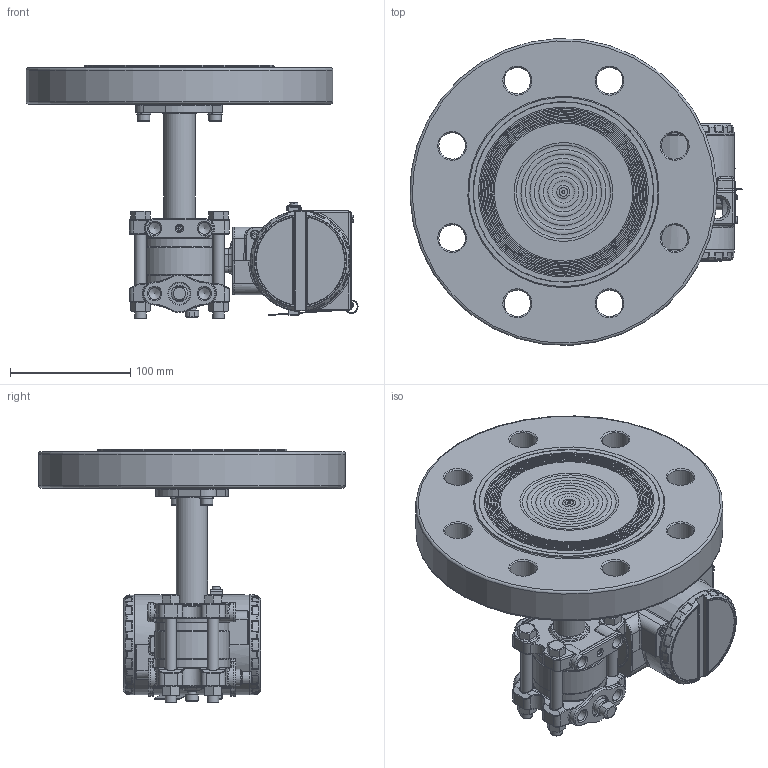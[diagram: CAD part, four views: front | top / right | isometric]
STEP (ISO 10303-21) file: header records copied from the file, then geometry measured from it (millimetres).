
FILE_DESCRIPTION(/* description */ (''),/* implementation_level */ '2;1');
FILE_NAME(/* name */ 'F:\Area\Desenvolvimento_2\Projects\Sensor\projetos\LD30X\montagens 3d - clientes\SELO NIVEL\LD30XL 4-300 RF ref 1-4NPT purga acima.stp',/* time_stamp */ '2023-02-15T08:41:20-03:00',/* author */ ('inventor02'),/* organization */ (''),/* preprocessor_version */ 'ST-DEVELOPER v17',/* originating_system */ 'Autodesk Inventor 2019',/* authorisation */ '');
FILE_SCHEMA (('CONFIG_CONTROL_DESIGN'));
Products named in the file (38): LD30XL 4-300 RF ref 1-4NPT purga acima; 204-0301-L-4 300 RF purga acima; nivel fx3 com baixa diferencial 1-4NPT purga acima; involucro fx0-3 apos a usinagem final; flange diferencial std purga; 101-C-7484-01 flange selo nivel VR; 201-A-0504-tubo união teste 1; bujao 1-4NPT; Sangria; Porca 3-8 x 16 UNC; Paraf. 3-8 x 16 UNC; adaptação tubo x flanges 1-1-2 a 4pol; 101-B-0161-anel cortado do tubo - teste1; 101-B-0162-flange fixação tubo; ANSI B18.3.1M - M6x1 x 16; DIN 127 - A 6; 101-C-0121-10; carcaça vazia com tampas e plaqueta; carcaça LD inox sem letras; Subconjunto plaqueta 300; Plaqueta transmissor; Parafuso da Plaqueta; Rebite da Plaqueta; 096-A-0169-03; 101-A-0502-01; Chapa aterramento externo; ISO 1207 - M4 x 8; DIN 915 - M6 x 10; ANSI B18.3.1M - M4x0,7 x 8; Subconjunto tampa com visor aluminio; tampa pintada; VIDRO DO VISOR; oring 41x1 vidro tampa; Trava do vidro da tampa com visor; trava do vidro VH256; Subconjunto tampa sem visor-aluminio; tampa cega 300 pintada p0; 00034775-0
Assembly tree (48 placements, depth 4):
  LD30XL 4-300 RF ref 1-4NPT purga acima
    204-0301-L-4 300 RF purga acima
      nivel fx3 com baixa diferencial 1-4NPT purga acima
        involucro fx0-3 apos a usinagem final
        flange diferencial std purga
        101-C-7484-01 flange selo nivel VR
        201-A-0504-tubo união teste 1
        DIN 915 - M6 x 10
        bujao 1-4NPT
        Sangria
        Porca 3-8 x 16 UNC  x4
        Paraf. 3-8 x 16 UNC  x4
      adaptação tubo x flanges 1-1-2 a 4pol
        101-B-0161-anel cortado do tubo - teste1
        101-B-0162-flange fixação tubo
        ANSI B18.3.1M - M6x1 x 16  x2
        DIN 127 - A 6  x2
      101-C-0121-10
    carcaça vazia com tampas e plaqueta
      carcaça LD inox sem letras
      Subconjunto plaqueta 300
        Plaqueta transmissor
        Parafuso da Plaqueta
        Rebite da Plaqueta
        096-A-0169-03
        101-A-0502-01
      Chapa aterramento externo
      ISO 1207 - M4 x 8
      DIN 915 - M6 x 10
      ANSI B18.3.1M - M4x0,7 x 8  x2
      Subconjunto tampa com visor aluminio
        tampa pintada
        VIDRO DO VISOR
        oring 41x1 vidro tampa
        Trava do vidro da tampa com visor
        trava do vidro VH256
        00034775-0
      Subconjunto tampa sem visor-aluminio
        tampa cega 300 pintada p0
        00034775-0
Bounding box: 275.66 x 254.76 x 210.5 mm (x, y, z)
Volume: 2082521 mm3; surface area: 393300.4 mm2
Topology: 41 solids, 41 shells, 2694 faces, 6460 edges, 3808 vertices
Faces by surface type: bspline 666, cylinder 652, plane 546, torus 454, cone 250, sphere 126
Full cylindrical faces by diameter (mm): 2 x4, 2.1 x2, 2.459 x5, 2.5 x1, 2.642 x1, 2.7 x1, 2.8 x1, 3 x4, 3.242 x4, 3.5 x5, 3.571 x1, 4 x5, 4.3 x1, 4.4 x1, 4.917 x4, 5 x1, 5.5 x3, 6 x6, 6.647 x1, 7 x7, 7.087 x2, 7.6 x2, 7.798 x4, 8 x1, 8.7 x2, 9.525 x4, 9.728 x6, 10 x2, 10.5 x8, 10.719 x2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
Entity records: 93154 total; most frequent: CARTESIAN_POINT 34405, ORIENTED_EDGE 12100, DIRECTION 12077, EDGE_CURVE 6050, AXIS2_PLACEMENT_3D 5318, VERTEX_POINT 3614, CIRCLE 3140, EDGE_LOOP 2728
